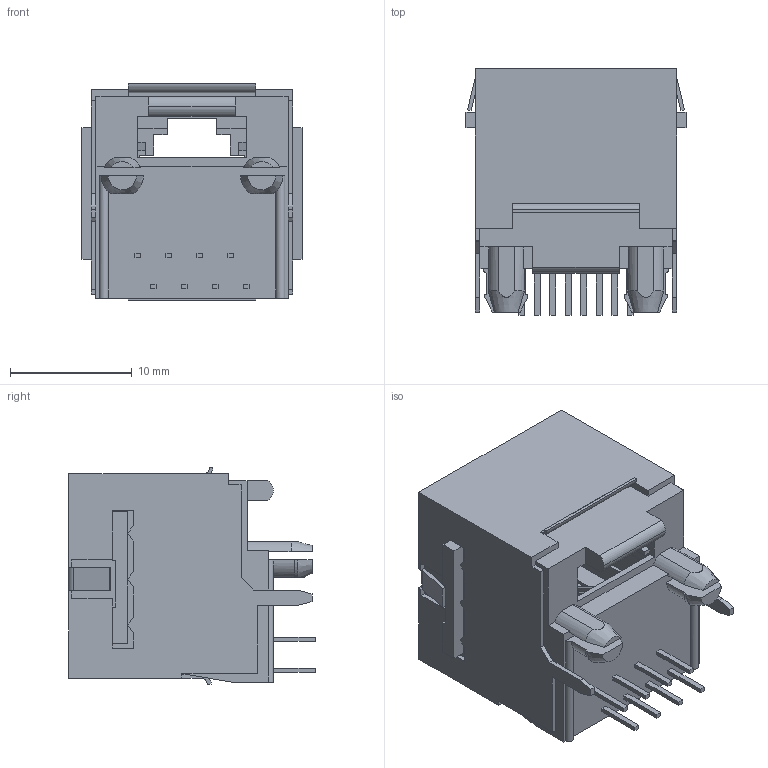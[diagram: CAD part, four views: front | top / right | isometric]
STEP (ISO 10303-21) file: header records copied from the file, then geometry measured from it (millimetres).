
FILE_DESCRIPTION (( 'STEP AP214' ), '1' );
FILE_NAME ('5557969-1.step', '2011-05-17T08:54:02', ( 'vpeshkov' ), ( 'licard' ), 'SwSTEP 2.0', 'SolidWorks 2009', '' );
FILE_SCHEMA (( 'AUTOMOTIVE_DESIGN' ));
Length unit declared in the file: mil
Products named in the file (1): 5557969-1
Bounding box: 18.03 x 20.19 x 17.78 mm (x, y, z)
Volume: 2757.2 mm3; surface area: 3193.8 mm2
Topology: 1 solids, 1 shells, 360 faces, 1023 edges, 672 vertices
Faces by surface type: plane 322, cylinder 34, cone 4
Entity records: 14191 total; most frequent: CARTESIAN_POINT 2149, ORIENTED_EDGE 2046, DIRECTION 1816, EDGE_CURVE 1023, VECTOR 918, LINE 918, VERTEX_POINT 672, AXIS2_PLACEMENT_3D 449
